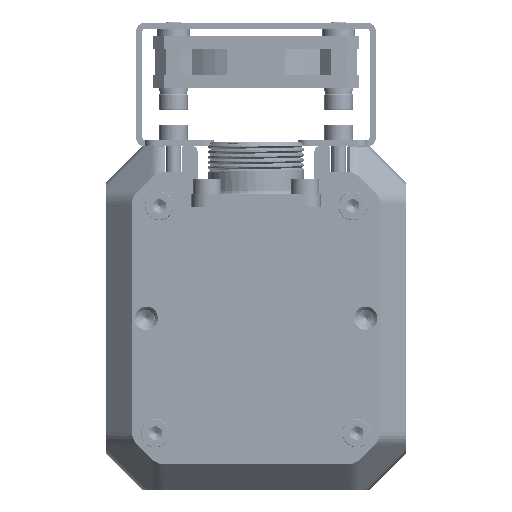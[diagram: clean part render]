
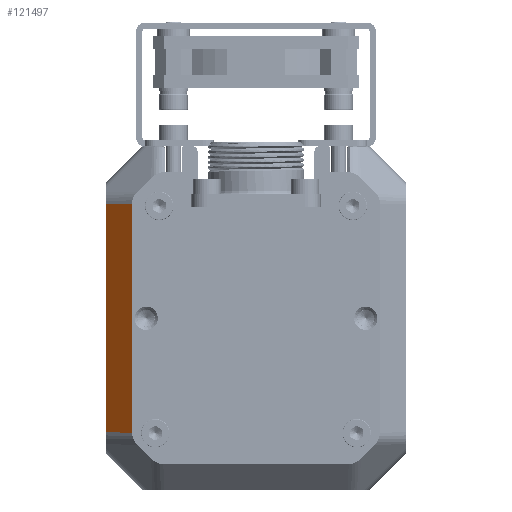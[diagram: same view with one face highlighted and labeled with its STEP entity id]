
A CAD part, front view. The second image highlights one B-rep face of the part: STEP entity #121497.
In plain terms, the highlighted planar face has unit normal (-0.707, -0.707, 0).
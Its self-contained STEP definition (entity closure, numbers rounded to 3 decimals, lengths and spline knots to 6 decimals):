
#21662=CARTESIAN_POINT('',(-0.024,-0.585,-0.055435));
#21670=DIRECTION('',(0.707,-0.707,-0.02));
#21671=VECTOR('',#21670,0.007072);
#21672=CARTESIAN_POINT('',(-0.029,-0.58,-0.055297));
#21673=LINE('',#21672,#21671);
#21674=DIRECTION('',(0.,0.,-1.));
#21675=VECTOR('',#21674,0.044094);
#21676=CARTESIAN_POINT('',(-0.029,-0.58,-0.011203));
#21677=LINE('',#21676,#21675);
#21678=DIRECTION('',(-0.707,0.707,-0.02));
#21679=VECTOR('',#21678,0.007072);
#21680=CARTESIAN_POINT('',(-0.024,-0.585,-0.011065));
#21681=LINE('',#21680,#21679);
#21682=DIRECTION('',(0.,0.,1.));
#21683=VECTOR('',#21682,0.044371);
#21684=CARTESIAN_POINT('',(-0.024,-0.585,-0.055435));
#21685=LINE('',#21684,#21683);
#21696=CARTESIAN_POINT('',(-0.029,-0.58,-0.011203));
#74166=VERTEX_POINT('',#21662);
#74167=CARTESIAN_POINT('',(-0.024,-0.585,-0.011065));
#74168=VERTEX_POINT('',#74167);
#74378=VERTEX_POINT('',#21696);
#74379=CARTESIAN_POINT('',(-0.029,-0.58,-0.055297));
#74380=VERTEX_POINT('',#74379);
#121484=CARTESIAN_POINT('',(-0.0265,-0.5825,-0.03325));
#121485=DIRECTION('',(-0.707,-0.707,0.));
#121486=DIRECTION('',(-0.707,0.707,0.));
#121487=AXIS2_PLACEMENT_3D('',#121484,#121485,#121486);
#121488=PLANE('',#121487);
#121489=ORIENTED_EDGE('',*,*,#121468,.F.);
#121490=ORIENTED_EDGE('',*,*,#97419,.F.);
#121492=ORIENTED_EDGE('',*,*,#121491,.F.);
#121494=ORIENTED_EDGE('',*,*,#121493,.F.);
#121495=EDGE_LOOP('',(#121489,#121490,#121492,#121494));
#121496=FACE_OUTER_BOUND('',#121495,.F.);
#97419=EDGE_CURVE('',#74378,#74380,#21677,.T.);
#121468=EDGE_CURVE('',#74380,#74166,#21673,.T.);
#121491=EDGE_CURVE('',#74168,#74378,#21681,.T.);
#121493=EDGE_CURVE('',#74166,#74168,#21685,.T.);
#121497=ADVANCED_FACE('',(#121496),#121488,.T.);
